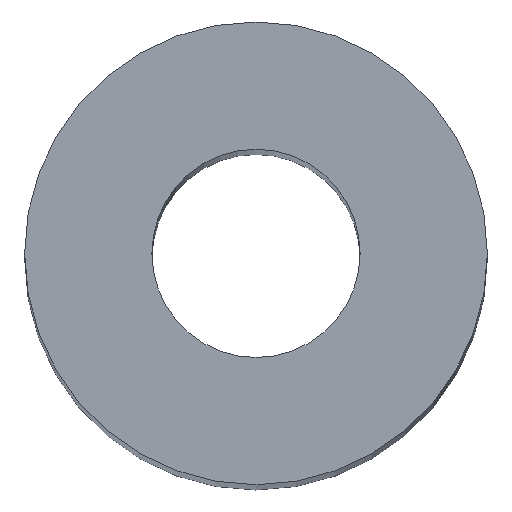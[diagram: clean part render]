
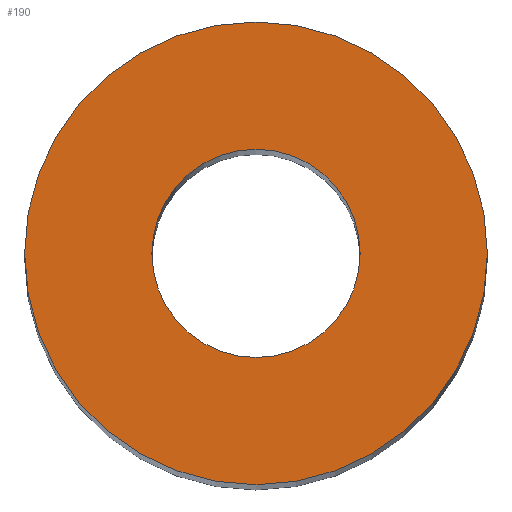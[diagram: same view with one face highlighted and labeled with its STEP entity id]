
A CAD part, top view. The second image highlights one B-rep face of the part: STEP entity #190.
In plain terms, the highlighted planar face has unit normal (0, 0, 1).
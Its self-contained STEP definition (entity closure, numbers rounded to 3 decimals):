
#24 = VERTEX_POINT('',#25);
#25 = CARTESIAN_POINT('',(5.,0.,65.));
#32 = CYLINDRICAL_SURFACE('',#33,5.);
#33 = AXIS2_PLACEMENT_3D('',#34,#35,#36);
#34 = CARTESIAN_POINT('',(0.,0.,0.));
#35 = DIRECTION('',(-0.,-0.,-1.));
#36 = DIRECTION('',(1.,0.,0.));
#51 = EDGE_CURVE('',#24,#24,#52,.T.);
#52 = SURFACE_CURVE('',#53,(#58,#65),.PCURVE_S1.);
#53 = CIRCLE('',#54,5.);
#54 = AXIS2_PLACEMENT_3D('',#55,#56,#57);
#55 = CARTESIAN_POINT('',(0.,0.,65.));
#56 = DIRECTION('',(0.,0.,1.));
#57 = DIRECTION('',(1.,0.,0.));
#58 = PCURVE('',#32,#59);
#59 = DEFINITIONAL_REPRESENTATION('',(#60),#64);
#60 = LINE('',#61,#62);
#61 = CARTESIAN_POINT('',(-0.,-65.));
#62 = VECTOR('',#63,1.);
#63 = DIRECTION('',(-1.,0.));
#64 = ( GEOMETRIC_REPRESENTATION_CONTEXT(2) 
PARAMETRIC_REPRESENTATION_CONTEXT() REPRESENTATION_CONTEXT('2D SPACE',''
  ) );
#65 = PCURVE('',#66,#71);
#66 = PLANE('',#67);
#67 = AXIS2_PLACEMENT_3D('',#68,#69,#70);
#68 = CARTESIAN_POINT('',(0.,0.,65.));
#69 = DIRECTION('',(0.,0.,1.));
#70 = DIRECTION('',(1.,0.,-0.));
#71 = DEFINITIONAL_REPRESENTATION('',(#72),#76);
#72 = CIRCLE('',#73,5.);
#73 = AXIS2_PLACEMENT_2D('',#74,#75);
#74 = CARTESIAN_POINT('',(0.,0.));
#75 = DIRECTION('',(1.,0.));
#76 = ( GEOMETRIC_REPRESENTATION_CONTEXT(2) 
PARAMETRIC_REPRESENTATION_CONTEXT() REPRESENTATION_CONTEXT('2D SPACE',''
  ) );
#112 = VERTEX_POINT('',#113);
#113 = CARTESIAN_POINT('',(2.25,0.,65.));
#120 = CYLINDRICAL_SURFACE('',#121,2.25);
#121 = AXIS2_PLACEMENT_3D('',#122,#123,#124);
#122 = CARTESIAN_POINT('',(0.,0.,0.));
#123 = DIRECTION('',(-0.,-0.,-1.));
#124 = DIRECTION('',(1.,0.,0.));
#139 = EDGE_CURVE('',#112,#112,#140,.T.);
#140 = SURFACE_CURVE('',#141,(#146,#153),.PCURVE_S1.);
#141 = CIRCLE('',#142,2.25);
#142 = AXIS2_PLACEMENT_3D('',#143,#144,#145);
#143 = CARTESIAN_POINT('',(0.,0.,65.));
#144 = DIRECTION('',(0.,0.,1.));
#145 = DIRECTION('',(1.,0.,0.));
#146 = PCURVE('',#120,#147);
#147 = DEFINITIONAL_REPRESENTATION('',(#148),#152);
#148 = LINE('',#149,#150);
#149 = CARTESIAN_POINT('',(-0.,-65.));
#150 = VECTOR('',#151,1.);
#151 = DIRECTION('',(-1.,0.));
#152 = ( GEOMETRIC_REPRESENTATION_CONTEXT(2) 
PARAMETRIC_REPRESENTATION_CONTEXT() REPRESENTATION_CONTEXT('2D SPACE',''
  ) );
#153 = PCURVE('',#66,#154);
#154 = DEFINITIONAL_REPRESENTATION('',(#155),#159);
#155 = CIRCLE('',#156,2.25);
#156 = AXIS2_PLACEMENT_2D('',#157,#158);
#157 = CARTESIAN_POINT('',(0.,0.));
#158 = DIRECTION('',(1.,0.));
#159 = ( GEOMETRIC_REPRESENTATION_CONTEXT(2) 
PARAMETRIC_REPRESENTATION_CONTEXT() REPRESENTATION_CONTEXT('2D SPACE',''
  ) );
#190 = ADVANCED_FACE('',(#191,#194),#66,.T.);
#191 = FACE_BOUND('',#192,.T.);
#192 = EDGE_LOOP('',(#193));
#193 = ORIENTED_EDGE('',*,*,#51,.T.);
#194 = FACE_BOUND('',#195,.T.);
#195 = EDGE_LOOP('',(#196));
#196 = ORIENTED_EDGE('',*,*,#139,.F.);
